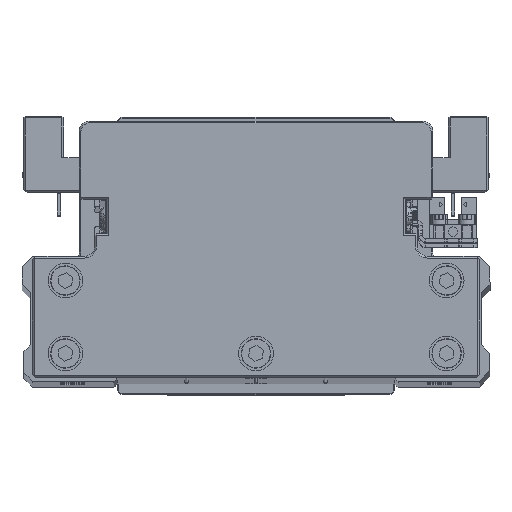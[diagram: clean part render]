
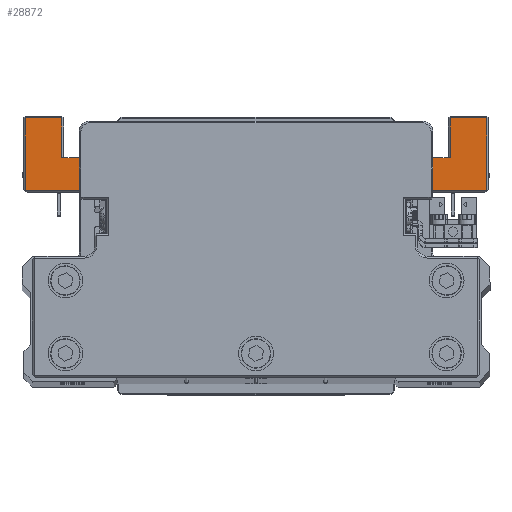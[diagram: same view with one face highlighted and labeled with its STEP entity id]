
A CAD part, top view. The second image highlights one B-rep face of the part: STEP entity #28872.
In plain terms, the highlighted planar face has unit normal (0, 0, 1) as drawn and (0, -1, 0) by its records, which use the part's own axes.
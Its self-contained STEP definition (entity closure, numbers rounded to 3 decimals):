
#94 = EDGE_CURVE ( 'NONE', #4026, #38067, #29409, .T. ) ;
#213 = VECTOR ( 'NONE', #33392, 1000. ) ;
#742 = VERTEX_POINT ( 'NONE', #15311 ) ;
#1002 = LINE ( 'NONE', #13505, #6408 ) ;
#1353 = CARTESIAN_POINT ( 'NONE',  ( 56., -45., -64.5 ) ) ;
#1884 = VERTEX_POINT ( 'NONE', #38924 ) ;
#2280 = EDGE_CURVE ( 'NONE', #1884, #30529, #4121, .T. ) ;
#3063 = ORIENTED_EDGE ( 'NONE', *, *, #23706, .F. ) ;
#3615 = EDGE_CURVE ( 'NONE', #38067, #10388, #1002, .T. ) ;
#4026 = VERTEX_POINT ( 'NONE', #32659 ) ;
#4121 = CIRCLE ( 'NONE', #27029, 1.5 ) ;
#4181 = AXIS2_PLACEMENT_3D ( 'NONE', #11092, #23587, #36119 ) ;
#4416 = CARTESIAN_POINT ( 'NONE',  ( -40.066, -45., -41.5 ) ) ;
#4635 = VECTOR ( 'NONE', #9366, 1000. ) ;
#4714 = VECTOR ( 'NONE', #23028, 1000. ) ;
#4749 = VECTOR ( 'NONE', #19768, 1000. ) ;
#5375 = CARTESIAN_POINT ( 'NONE',  ( -40.066, -45., -43. ) ) ;
#5748 = ORIENTED_EDGE ( 'NONE', *, *, #28253, .T. ) ;
#6408 = VECTOR ( 'NONE', #25992, 1000. ) ;
#7014 = ORIENTED_EDGE ( 'NONE', *, *, #13823, .T. ) ;
#7112 = CARTESIAN_POINT ( 'NONE',  ( 0., -45., 0. ) ) ;
#7260 = CARTESIAN_POINT ( 'NONE',  ( 66.5, -45., -43.5 ) ) ;
#7361 = LINE ( 'NONE', #19870, #24079 ) ;
#8280 = EDGE_LOOP ( 'NONE', ( #32445, #16252, #34418, #7014, #26891, #17612, #14379, #21561, #15536, #27389, #22759, #3063, #25326, #39424, #23760, #10201, #23384, #5748 ) ) ;
#8358 = LINE ( 'NONE', #20864, #213 ) ;
#9081 = VERTEX_POINT ( 'NONE', #15826 ) ;
#9229 = CARTESIAN_POINT ( 'NONE',  ( 46., -45., -54. ) ) ;
#9366 = DIRECTION ( 'NONE',  ( 0., 0., 1. ) ) ;
#9673 = CARTESIAN_POINT ( 'NONE',  ( -66.5, -45., -64.5 ) ) ;
#9684 = LINE ( 'NONE', #22186, #14259 ) ;
#10201 = ORIENTED_EDGE ( 'NONE', *, *, #37105, .T. ) ;
#10388 = VERTEX_POINT ( 'NONE', #25248 ) ;
#10534 = CARTESIAN_POINT ( 'NONE',  ( -39.868, -45., -42.987 ) ) ;
#10810 = VERTEX_POINT ( 'NONE', #9229 ) ;
#10838 = DIRECTION ( 'NONE',  ( -1., 0., 0. ) ) ;
#10947 = CARTESIAN_POINT ( 'NONE',  ( -56., -45., -52.5 ) ) ;
#10959 = VECTOR ( 'NONE', #36208, 1000. ) ;
#11092 = CARTESIAN_POINT ( 'NONE',  ( 40.066, -45., -41.5 ) ) ;
#11150 = CARTESIAN_POINT ( 'NONE',  ( 39.868, -45., -42.987 ) ) ;
#11201 = LINE ( 'NONE', #23679, #10959 ) ;
#11235 = VERTEX_POINT ( 'NONE', #24952 ) ;
#11470 = CARTESIAN_POINT ( 'NONE',  ( 46., -45., -52.5 ) ) ;
#11557 = LINE ( 'NONE', #24033, #26069 ) ;
#11640 = LINE ( 'NONE', #24118, #38672 ) ;
#11860 = DIRECTION ( 'NONE',  ( -1., 0., 0. ) ) ;
#12160 = CARTESIAN_POINT ( 'NONE',  ( -46., -45., -54. ) ) ;
#12882 = VERTEX_POINT ( 'NONE', #28838 ) ;
#12997 = EDGE_CURVE ( 'NONE', #20103, #9081, #11201, .T. ) ;
#13477 = LINE ( 'NONE', #25965, #33996 ) ;
#13505 = CARTESIAN_POINT ( 'NONE',  ( 67., -45., -64. ) ) ;
#13745 = EDGE_CURVE ( 'NONE', #20103, #10810, #7361, .T. ) ;
#13823 = EDGE_CURVE ( 'NONE', #30529, #742, #26416, .T. ) ;
#13856 = DIRECTION ( 'NONE',  ( 0., 0., -1. ) ) ;
#14259 = VECTOR ( 'NONE', #34725, 1000. ) ;
#14379 = ORIENTED_EDGE ( 'NONE', *, *, #21940, .T. ) ;
#15311 = CARTESIAN_POINT ( 'NONE',  ( -66.5, -45., -43. ) ) ;
#15536 = ORIENTED_EDGE ( 'NONE', *, *, #12997, .F. ) ;
#15717 = EDGE_CURVE ( 'NONE', #36151, #10810, #39563, .T. ) ;
#15826 = CARTESIAN_POINT ( 'NONE',  ( -46., -45., -52.5 ) ) ;
#16015 = VERTEX_POINT ( 'NONE', #10947 ) ;
#16252 = ORIENTED_EDGE ( 'NONE', *, *, #22609, .T. ) ;
#16915 = DIRECTION ( 'NONE',  ( 0., 1., 0. ) ) ;
#17612 = ORIENTED_EDGE ( 'NONE', *, *, #26010, .T. ) ;
#19623 = DIRECTION ( 'NONE',  ( 0., -1., 0. ) ) ;
#19768 = DIRECTION ( 'NONE',  ( 0., 0., 1. ) ) ;
#19870 = CARTESIAN_POINT ( 'NONE',  ( 46., -45., -54. ) ) ;
#20103 = VERTEX_POINT ( 'NONE', #12160 ) ;
#20864 = CARTESIAN_POINT ( 'NONE',  ( 55.5, -45., -52.5 ) ) ;
#20931 = CARTESIAN_POINT ( 'NONE',  ( 46., -45., -52.5 ) ) ;
#21561 = ORIENTED_EDGE ( 'NONE', *, *, #28891, .F. ) ;
#21852 = CIRCLE ( 'NONE', #4181, 1.5 ) ;
#21940 = EDGE_CURVE ( 'NONE', #30554, #16015, #24937, .T. ) ;
#22127 = VECTOR ( 'NONE', #10838, 1000. ) ;
#22168 = DIRECTION ( 'NONE',  ( 0., 0., -1. ) ) ;
#22176 = VECTOR ( 'NONE', #23945, 1000. ) ;
#22186 = CARTESIAN_POINT ( 'NONE',  ( 40.066, -45., -43. ) ) ;
#22609 = EDGE_CURVE ( 'NONE', #37225, #1884, #38631, .T. ) ;
#22687 = FACE_OUTER_BOUND ( 'NONE', #8280, .T. ) ;
#22759 = ORIENTED_EDGE ( 'NONE', *, *, #15717, .F. ) ;
#23028 = DIRECTION ( 'NONE',  ( -0.991, 0., -0.132 ) ) ;
#23384 = ORIENTED_EDGE ( 'NONE', *, *, #24493, .T. ) ;
#23499 = AXIS2_PLACEMENT_3D ( 'NONE', #7112, #19623, #32135 ) ;
#23587 = DIRECTION ( 'NONE',  ( 0., 1., 0. ) ) ;
#23679 = CARTESIAN_POINT ( 'NONE',  ( -46., -45., -52.5 ) ) ;
#23706 = EDGE_CURVE ( 'NONE', #4026, #36151, #8358, .T. ) ;
#23760 = ORIENTED_EDGE ( 'NONE', *, *, #33432, .T. ) ;
#23945 = DIRECTION ( 'NONE',  ( 0., 0., -1. ) ) ;
#23991 = VERTEX_POINT ( 'NONE', #11150 ) ;
#24033 = CARTESIAN_POINT ( 'NONE',  ( 25.802, -45., -41.111 ) ) ;
#24079 = VECTOR ( 'NONE', #32373, 1000. ) ;
#24118 = CARTESIAN_POINT ( 'NONE',  ( -55.5, -45., -64. ) ) ;
#24253 = VECTOR ( 'NONE', #13856, 1000. ) ;
#24261 = EDGE_CURVE ( 'NONE', #742, #11235, #37779, .T. ) ;
#24493 = EDGE_CURVE ( 'NONE', #12882, #23991, #21852, .T. ) ;
#24937 = LINE ( 'NONE', #37467, #4635 ) ;
#24952 = CARTESIAN_POINT ( 'NONE',  ( -66.5, -45., -64. ) ) ;
#25248 = CARTESIAN_POINT ( 'NONE',  ( 66.5, -45., -64. ) ) ;
#25326 = ORIENTED_EDGE ( 'NONE', *, *, #94, .T. ) ;
#25425 = VERTEX_POINT ( 'NONE', #32824 ) ;
#25469 = VECTOR ( 'NONE', #11860, 1000. ) ;
#25965 = CARTESIAN_POINT ( 'NONE',  ( -55.5, -45., -52.5 ) ) ;
#25992 = DIRECTION ( 'NONE',  ( 1., 0., 0. ) ) ;
#26010 = EDGE_CURVE ( 'NONE', #11235, #30554, #11640, .T. ) ;
#26062 = CARTESIAN_POINT ( 'NONE',  ( -36.217, -45., -42.5 ) ) ;
#26069 = VECTOR ( 'NONE', #36563, 1000. ) ;
#26416 = LINE ( 'NONE', #38945, #22127 ) ;
#26891 = ORIENTED_EDGE ( 'NONE', *, *, #24261, .T. ) ;
#27029 = AXIS2_PLACEMENT_3D ( 'NONE', #4416, #16915, #29417 ) ;
#27389 = ORIENTED_EDGE ( 'NONE', *, *, #13745, .T. ) ;
#28253 = EDGE_CURVE ( 'NONE', #23991, #25425, #11557, .T. ) ;
#28838 = CARTESIAN_POINT ( 'NONE',  ( 40.066, -45., -43. ) ) ;
#28872 = ADVANCED_FACE ( 'NONE', ( #22687 ), #35217, .T. ) ;
#28891 = EDGE_CURVE ( 'NONE', #9081, #16015, #13477, .T. ) ;
#29409 = LINE ( 'NONE', #1353, #24253 ) ;
#29417 = DIRECTION ( 'NONE',  ( 0., 0., -1. ) ) ;
#30463 = VERTEX_POINT ( 'NONE', #32648 ) ;
#30500 = LINE ( 'NONE', #39952, #25469 ) ;
#30529 = VERTEX_POINT ( 'NONE', #5375 ) ;
#30554 = VERTEX_POINT ( 'NONE', #36753 ) ;
#32135 = DIRECTION ( 'NONE',  ( 0., 0., -1. ) ) ;
#32373 = DIRECTION ( 'NONE',  ( 1., 0., 0. ) ) ;
#32445 = ORIENTED_EDGE ( 'NONE', *, *, #38240, .T. ) ;
#32572 = CARTESIAN_POINT ( 'NONE',  ( 56., -45., -64. ) ) ;
#32648 = CARTESIAN_POINT ( 'NONE',  ( 66.5, -45., -43. ) ) ;
#32659 = CARTESIAN_POINT ( 'NONE',  ( 56., -45., -52.5 ) ) ;
#32824 = CARTESIAN_POINT ( 'NONE',  ( 36.217, -45., -42.5 ) ) ;
#33392 = DIRECTION ( 'NONE',  ( -1., 0., 0. ) ) ;
#33432 = EDGE_CURVE ( 'NONE', #10388, #30463, #35366, .T. ) ;
#33996 = VECTOR ( 'NONE', #38490, 1000. ) ;
#34418 = ORIENTED_EDGE ( 'NONE', *, *, #2280, .T. ) ;
#34725 = DIRECTION ( 'NONE',  ( -1., 0., 0. ) ) ;
#35217 = PLANE ( 'NONE',  #23499 ) ;
#35366 = LINE ( 'NONE', #7260, #4749 ) ;
#36119 = DIRECTION ( 'NONE',  ( 0., 0., -1. ) ) ;
#36151 = VERTEX_POINT ( 'NONE', #20931 ) ;
#36208 = DIRECTION ( 'NONE',  ( 0., 0., 1. ) ) ;
#36563 = DIRECTION ( 'NONE',  ( -0.991, 0., 0.132 ) ) ;
#36659 = DIRECTION ( 'NONE',  ( 1., 0., 0. ) ) ;
#36753 = CARTESIAN_POINT ( 'NONE',  ( -56., -45., -64. ) ) ;
#36906 = VECTOR ( 'NONE', #22168, 1000. ) ;
#37105 = EDGE_CURVE ( 'NONE', #30463, #12882, #9684, .T. ) ;
#37225 = VERTEX_POINT ( 'NONE', #26062 ) ;
#37467 = CARTESIAN_POINT ( 'NONE',  ( -56., -45., -52.5 ) ) ;
#37779 = LINE ( 'NONE', #9673, #36906 ) ;
#38067 = VERTEX_POINT ( 'NONE', #32572 ) ;
#38240 = EDGE_CURVE ( 'NONE', #25425, #37225, #30500, .T. ) ;
#38490 = DIRECTION ( 'NONE',  ( -1., 0., 0. ) ) ;
#38631 = LINE ( 'NONE', #10534, #4714 ) ;
#38672 = VECTOR ( 'NONE', #36659, 1000. ) ;
#38924 = CARTESIAN_POINT ( 'NONE',  ( -39.868, -45., -42.987 ) ) ;
#38945 = CARTESIAN_POINT ( 'NONE',  ( -66., -45., -43. ) ) ;
#39424 = ORIENTED_EDGE ( 'NONE', *, *, #3615, .T. ) ;
#39563 = LINE ( 'NONE', #11470, #22176 ) ;
#39952 = CARTESIAN_POINT ( 'NONE',  ( -77.786, -45., -42.5 ) ) ;
